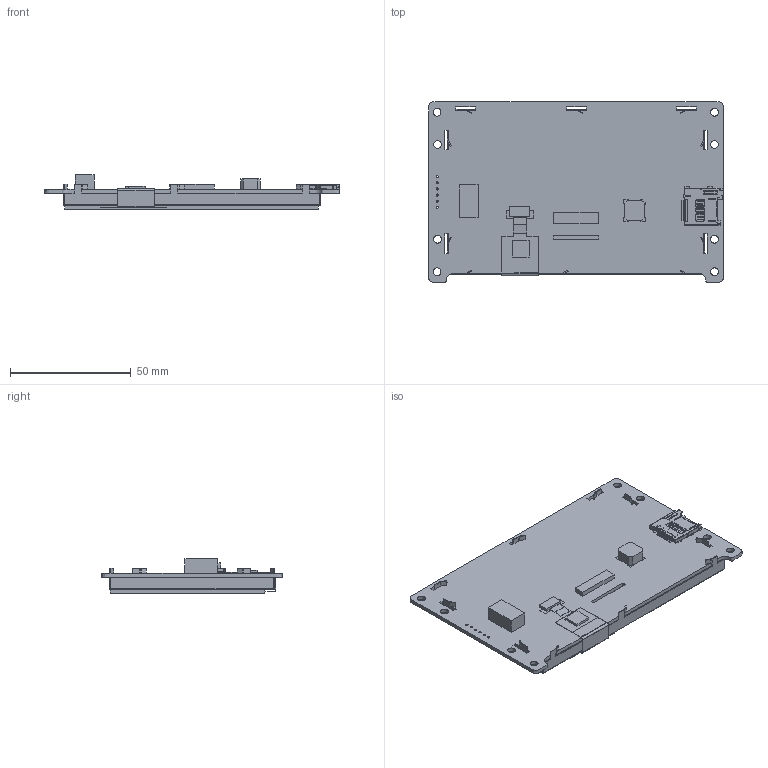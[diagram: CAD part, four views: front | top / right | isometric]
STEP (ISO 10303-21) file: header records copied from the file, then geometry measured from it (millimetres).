
FILE_DESCRIPTION(/* description */ (''),/* implementation_level */ '2;1');
FILE_NAME(/* name */ '',/* time_stamp */ '2023-06-14T14:22:08+08:00',/* author */ (''),/* organization */ (''),/* preprocessor_version */ 'ST-DEVELOPER v11',/* originating_system */ 'SIEMENS PLM Software NX 7.5',/* authorisation */ '');
FILE_SCHEMA (('AP203_CONFIGURATION_CONTROLLED_3D_DESIGN_OF_MECHANICAL_PARTS_AND_ASSEMBLIES_MIM_LF'));
Length unit declared in the file: millimetre
Products named in the file (1): SDWn043C33C
Bounding box: 121.9 x 74.7 x 14.22 mm (x, y, z)
Volume: 25999.8 mm3; surface area: 42977.1 mm2
Topology: 15 solids, 15 shells, 1225 faces, 3479 edges, 2261 vertices
Faces by surface type: plane 932, cylinder 291, cone 1, extrusion 1
Full cylindrical faces by diameter (mm): 0.889 x6, 3.2 x8
Entity records: 40567 total; most frequent: CARTESIAN_POINT 7113, ORIENTED_EDGE 6928, DIRECTION 6493, EDGE_CURVE 3464, VECTOR 2867, LINE 2866, VERTEX_POINT 2261, AXIS2_PLACEMENT_3D 1813
